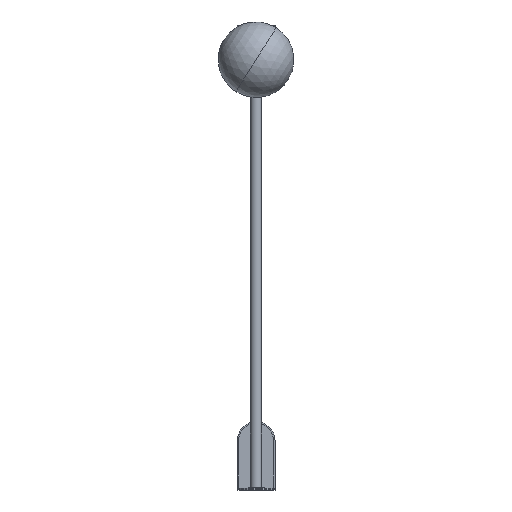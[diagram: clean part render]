
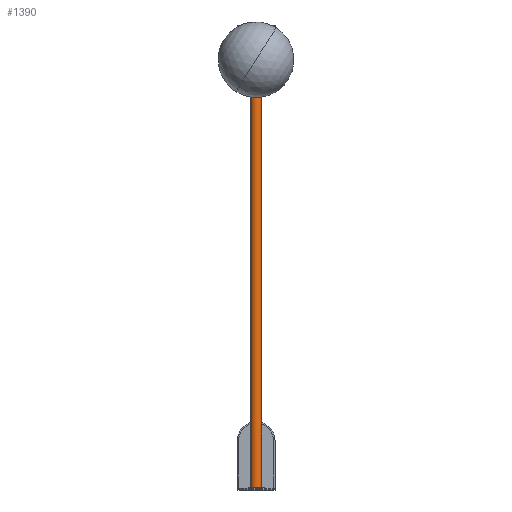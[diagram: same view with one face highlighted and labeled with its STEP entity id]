
A CAD part, top view. The second image highlights one B-rep face of the part: STEP entity #1390.
In plain terms, the highlighted cylindrical face has radius 6 mm (diameter 12 mm), a partial arc.
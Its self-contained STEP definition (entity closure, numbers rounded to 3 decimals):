
#395 = AXIS2_PLACEMENT_3D ( 'NONE', #1381, #2415, #4426 ) ;
#502 = CARTESIAN_POINT ( 'NONE',  ( 0., -450.2, -437.2 ) ) ;
#1006 = DIRECTION ( 'NONE',  ( -1., 0., 0. ) ) ;
#1108 = CARTESIAN_POINT ( 'NONE',  ( -6., -35., -437.2 ) ) ;
#1142 = LINE ( 'NONE', #2558, #2506 ) ;
#1144 = CYLINDRICAL_SURFACE ( 'NONE', #395, 6. ) ;
#1324 = FACE_OUTER_BOUND ( 'NONE', #2087, .T. ) ;
#1381 = CARTESIAN_POINT ( 'NONE',  ( 0., -450.2, -437.2 ) ) ;
#1390 = ADVANCED_FACE ( 'NONE', ( #1324 ), #1144, .T. ) ;
#1711 = AXIS2_PLACEMENT_3D ( 'NONE', #502, #4054, #1006 ) ;
#1843 = VERTEX_POINT ( 'NONE', #2797 ) ;
#1863 = EDGE_CURVE ( 'NONE', #4326, #2082, #4560, .T. ) ;
#2082 = VERTEX_POINT ( 'NONE', #1108 ) ;
#2087 = EDGE_LOOP ( 'NONE', ( #2608, #2832, #6170, #5175 ) ) ;
#2363 = VERTEX_POINT ( 'NONE', #3259 ) ;
#2415 = DIRECTION ( 'NONE',  ( 0., 1., 0. ) ) ;
#2506 = VECTOR ( 'NONE', #5582, 1000. ) ;
#2519 = EDGE_CURVE ( 'NONE', #1843, #2363, #4841, .T. ) ;
#2558 = CARTESIAN_POINT ( 'NONE',  ( -6., -450.2, -437.2 ) ) ;
#2608 = ORIENTED_EDGE ( 'NONE', *, *, #5824, .F. ) ;
#2797 = CARTESIAN_POINT ( 'NONE',  ( 6., -450.2, -437.2 ) ) ;
#2817 = DIRECTION ( 'NONE',  ( 0., -1., 0. ) ) ;
#2832 = ORIENTED_EDGE ( 'NONE', *, *, #2519, .F. ) ;
#3259 = CARTESIAN_POINT ( 'NONE',  ( -6., -450.2, -437.2 ) ) ;
#3436 = CARTESIAN_POINT ( 'NONE',  ( 6., -450.2, -437.2 ) ) ;
#4054 = DIRECTION ( 'NONE',  ( 0., -1., 0. ) ) ;
#4326 = VERTEX_POINT ( 'NONE', #6395 ) ;
#4368 = EDGE_CURVE ( 'NONE', #1843, #4326, #6102, .T. ) ;
#4426 = DIRECTION ( 'NONE',  ( 1., 0., 0. ) ) ;
#4560 = CIRCLE ( 'NONE', #5346, 6. ) ;
#4606 = VECTOR ( 'NONE', #5454, 1000. ) ;
#4841 = CIRCLE ( 'NONE', #1711, 6. ) ;
#5175 = ORIENTED_EDGE ( 'NONE', *, *, #1863, .T. ) ;
#5346 = AXIS2_PLACEMENT_3D ( 'NONE', #5845, #2817, #6336 ) ;
#5454 = DIRECTION ( 'NONE',  ( 0., 1., 0. ) ) ;
#5582 = DIRECTION ( 'NONE',  ( 0., 1., 0. ) ) ;
#5824 = EDGE_CURVE ( 'NONE', #2363, #2082, #1142, .T. ) ;
#5845 = CARTESIAN_POINT ( 'NONE',  ( 0., -35., -437.2 ) ) ;
#6102 = LINE ( 'NONE', #3436, #4606 ) ;
#6170 = ORIENTED_EDGE ( 'NONE', *, *, #4368, .T. ) ;
#6336 = DIRECTION ( 'NONE',  ( -1., 0., 0. ) ) ;
#6395 = CARTESIAN_POINT ( 'NONE',  ( 6., -35., -437.2 ) ) ;
